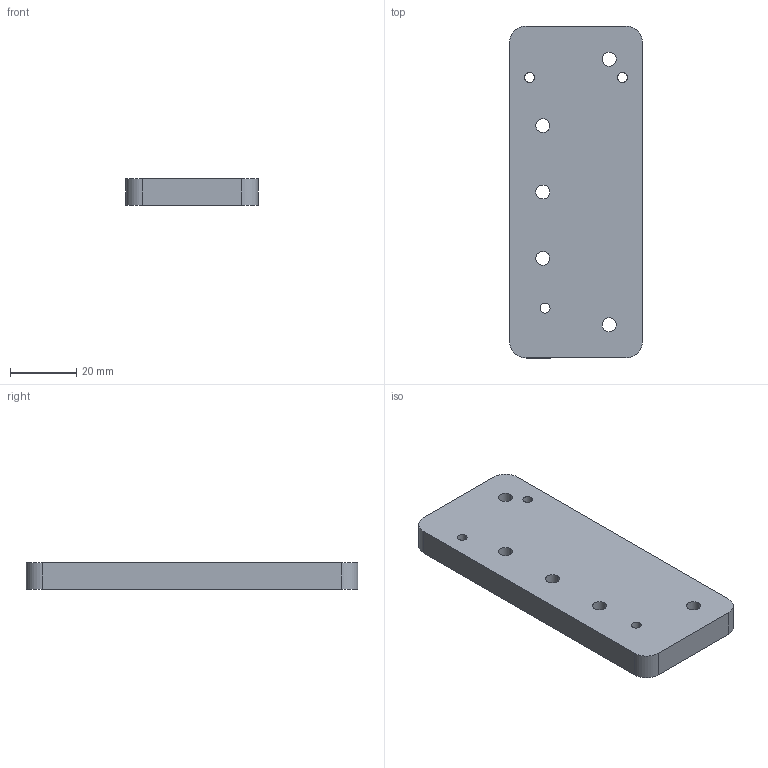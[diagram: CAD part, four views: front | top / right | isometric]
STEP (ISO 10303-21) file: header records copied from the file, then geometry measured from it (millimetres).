
FILE_DESCRIPTION (( 'STEP AP214' ), '1' );
FILE_NAME ('蝠遙儂嘐隅え.STEP', '2023-05-04T08:28:29', ( 'ay' ), ( '' ), 'SwSTEP 2.0', 'SolidWorks 2020', '' );
FILE_SCHEMA (( 'AUTOMOTIVE_DESIGN' ));
Length unit declared in the file: millimetre
Products named in the file (1): 蝠遙儂嘐隅え
Bounding box: 40 x 100 x 8 mm (x, y, z)
Volume: 30312.5 mm3; surface area: 10979.5 mm2
Topology: 1 solids, 1 shells, 41 faces, 102 edges, 68 vertices
Faces by surface type: cylinder 30, plane 11
Entity records: 1322 total; most frequent: DIRECTION 246, CARTESIAN_POINT 212, ORIENTED_EDGE 204, EDGE_CURVE 102, AXIS2_PLACEMENT_3D 102, VERTEX_POINT 68, EDGE_LOOP 62, CIRCLE 60
